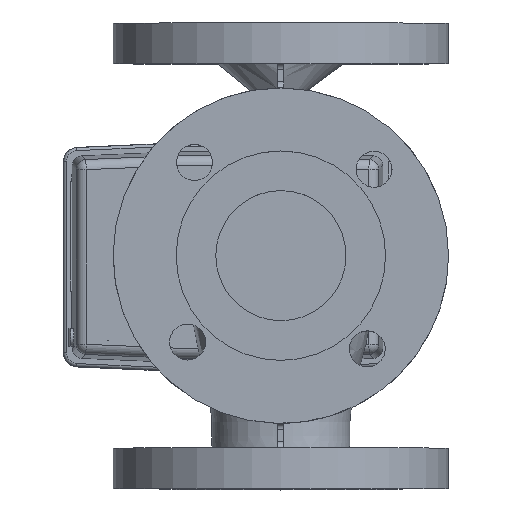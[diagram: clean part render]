
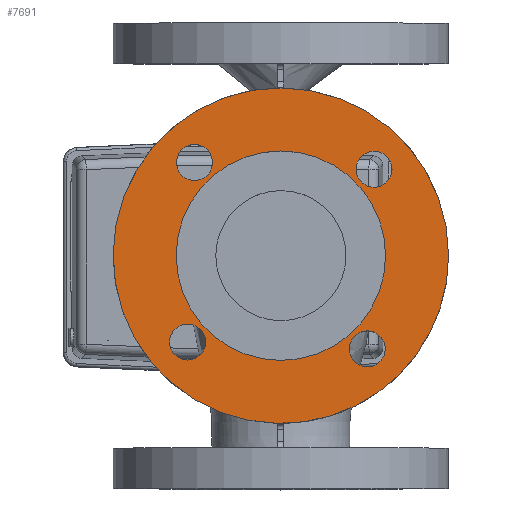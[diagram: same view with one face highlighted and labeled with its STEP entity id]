
A CAD part, top view. The second image highlights one B-rep face of the part: STEP entity #7691.
In plain terms, the highlighted planar face has unit normal (0, 0, 1).
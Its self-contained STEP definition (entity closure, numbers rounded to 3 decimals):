
#1623=ORIENTED_EDGE('',*,*,#2849,.F.);
#1624=ORIENTED_EDGE('',*,*,#2833,.T.);
#1625=ORIENTED_EDGE('',*,*,#2850,.T.);
#1626=ORIENTED_EDGE('',*,*,#2851,.T.);
#1627=ORIENTED_EDGE('',*,*,#2852,.T.);
#1628=ORIENTED_EDGE('',*,*,#2853,.T.);
#2833=EDGE_CURVE('',#3482,#3482,#3944,.T.);
#2849=EDGE_CURVE('',#3493,#3493,#3951,.T.);
#2850=EDGE_CURVE('',#3494,#3494,#3952,.T.);
#2851=EDGE_CURVE('',#3495,#3495,#3953,.T.);
#2852=EDGE_CURVE('',#3496,#3496,#3954,.T.);
#2853=EDGE_CURVE('',#3497,#3497,#3955,.T.);
#3482=VERTEX_POINT('',#13197);
#3493=VERTEX_POINT('',#13233);
#3494=VERTEX_POINT('',#13235);
#3495=VERTEX_POINT('',#13237);
#3496=VERTEX_POINT('',#13239);
#3497=VERTEX_POINT('',#13241);
#3944=CIRCLE('',#8184,51.5);
#3951=CIRCLE('',#8200,82.5);
#3952=CIRCLE('',#8201,8.85);
#3953=CIRCLE('',#8202,8.85);
#3954=CIRCLE('',#8203,8.85);
#3955=CIRCLE('',#8204,8.85);
#4302=EDGE_LOOP('',(#1623));
#4303=EDGE_LOOP('',(#1624));
#4304=EDGE_LOOP('',(#1625));
#4305=EDGE_LOOP('',(#1626));
#4306=EDGE_LOOP('',(#1627));
#4307=EDGE_LOOP('',(#1628));
#4754=FACE_BOUND('',#4302,.T.);
#4755=FACE_BOUND('',#4303,.T.);
#4756=FACE_BOUND('',#4304,.T.);
#4757=FACE_BOUND('',#4305,.T.);
#4758=FACE_BOUND('',#4306,.T.);
#4759=FACE_BOUND('',#4307,.T.);
#5044=PLANE('',#8199);
#7691=ADVANCED_FACE('',(#4754,#4755,#4756,#4757,#4758,#4759),#5044,.F.);
#8184=AXIS2_PLACEMENT_3D('',#13196,#9261,#9262);
#8199=AXIS2_PLACEMENT_3D('',#13231,#9300,#9301);
#8200=AXIS2_PLACEMENT_3D('',#13232,#9302,#9303);
#8201=AXIS2_PLACEMENT_3D('',#13234,#9304,#9305);
#8202=AXIS2_PLACEMENT_3D('',#13236,#9306,#9307);
#8203=AXIS2_PLACEMENT_3D('',#13238,#9308,#9309);
#8204=AXIS2_PLACEMENT_3D('',#13240,#9310,#9311);
#9261=DIRECTION('',(0.,0.,-1.));
#9262=DIRECTION('',(1.,0.,0.));
#9300=DIRECTION('',(0.,0.,-1.));
#9301=DIRECTION('',(1.,0.,0.));
#9302=DIRECTION('',(0.,0.,-1.));
#9303=DIRECTION('',(1.,0.,0.));
#9304=DIRECTION('',(0.,0.,-1.));
#9305=DIRECTION('',(1.,0.,0.));
#9306=DIRECTION('',(0.,0.,-1.));
#9307=DIRECTION('',(1.,0.,0.));
#9308=DIRECTION('',(0.,0.,-1.));
#9309=DIRECTION('',(1.,0.,0.));
#9310=DIRECTION('',(0.,0.,-1.));
#9311=DIRECTION('',(1.,0.,0.));
#13196=CARTESIAN_POINT('',(0.755,0.055,317.5));
#13197=CARTESIAN_POINT('',(52.255,0.055,317.5));
#13231=CARTESIAN_POINT('',(-65.429,10.439,317.5));
#13232=CARTESIAN_POINT('',(0.755,0.055,317.5));
#13233=CARTESIAN_POINT('',(83.255,0.055,317.5));
#13234=CARTESIAN_POINT('',(46.597,42.537,317.5));
#13235=CARTESIAN_POINT('',(55.447,42.537,317.5));
#13236=CARTESIAN_POINT('',(43.238,-45.787,317.5));
#13237=CARTESIAN_POINT('',(52.088,-45.787,317.5));
#13238=CARTESIAN_POINT('',(-45.087,-42.428,317.5));
#13239=CARTESIAN_POINT('',(-36.237,-42.428,317.5));
#13240=CARTESIAN_POINT('',(-41.727,45.897,317.5));
#13241=CARTESIAN_POINT('',(-32.877,45.897,317.5));
